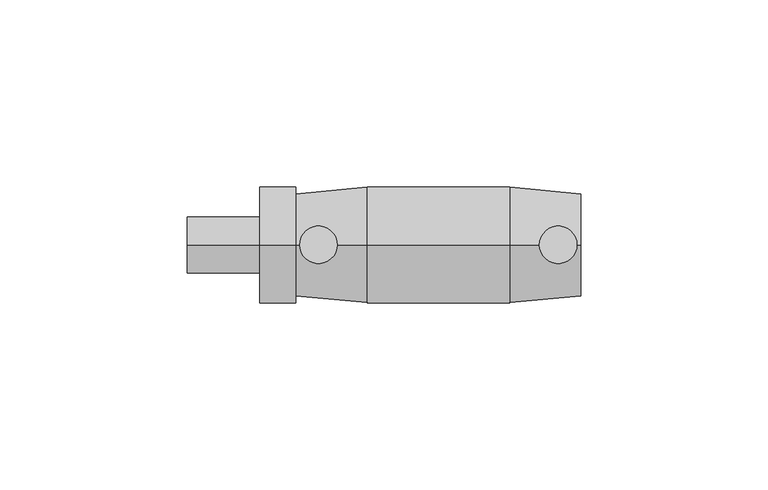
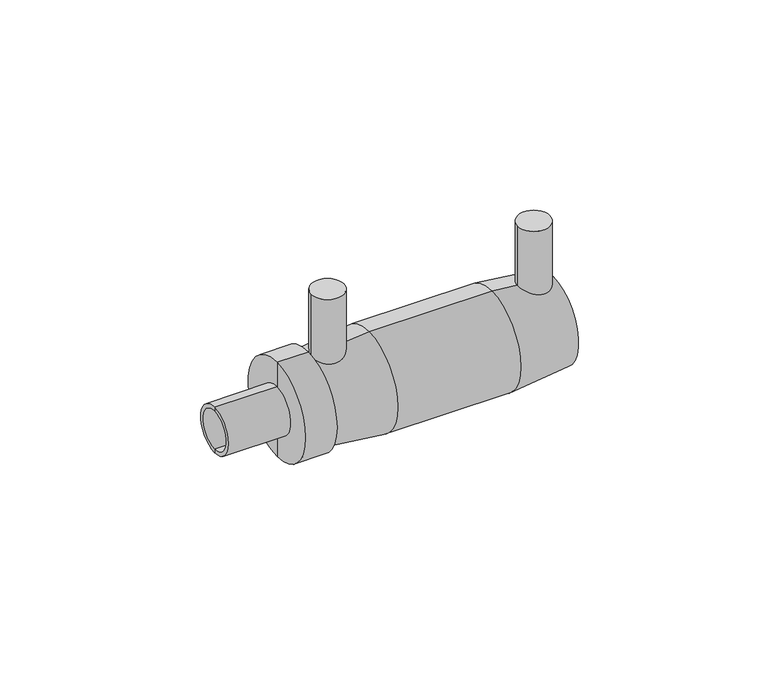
"""IFC4 building model written with IfcOpenShell, lengths in millimetres: pipe fitting geometry, Plumbing_Pipe-Fittings_Plasson_Male-Transition-Coupler_492104 : Plumbing_Pipe-Fittings_Plasson_Male-Transition-Coupler_492104."""

from ifc_helpers import new_model, si_unit, point, frame, frame_2d, origin, place, context, project, spatial, polyline, circle_curve, trimmed, segment, composite_curve, outline, extrude, source, transform, mapped, element, save
from ifc_brep_helpers import plane_surface, cylinder_surface, revolved_surface, advanced_brep


def pipe_fitting_9c215ce0(model_context):
    return source(origin(), model_context, "Body", "SolidModel", [
        advanced_brep(
        [(-38.0, 0.0, -7.0), (-38.0, 0.0, 7.0), (-38.0, 0.0, 10.0), (-38.0, 0.0, -10.0), (-1.0, 0.0, -7.0), (-1.0, 0.0, 7.0), (-1.0, 0.0, -10.0), (-1.0, 0.0, 10.0)],
        [
            (0, 1, circle_curve(frame((-38.0, 0.0, 0.0), z_axis=(1.0, 0.0, 0.0), x_axis=(0.0, 0.0, 1.0)), 7.0)),
            (1, 2),
            (2, 3, circle_curve(frame((-38.0, 0.0, 0.0), z_axis=(-1.0, 0.0, 0.0), x_axis=(0.0, 0.0, 1.0)), 10.0)),
            (3, 0),
            (1, 0, circle_curve(frame((-38.0, 0.0, 0.0), z_axis=(1.0, 0.0, 0.0), x_axis=(0.0, 0.0, 1.0)), 7.0)),
            (3, 2, circle_curve(frame((-38.0, 0.0, 0.0), z_axis=(-1.0, 0.0, 0.0), x_axis=(0.0, 0.0, 1.0)), 10.0)),
            (4, 5, circle_curve(frame((-1.0, 0.0, 0.0), z_axis=(1.0, 0.0, 0.0), x_axis=(0.0, 0.0, 1.0)), 7.0)),
            (5, 1),
            (0, 4),
            (5, 4, circle_curve(frame((-1.0, 0.0, 0.0), z_axis=(1.0, 0.0, 0.0), x_axis=(0.0, 0.0, 1.0)), 7.0)),
            (6, 7, circle_curve(frame((-1.0, 0.0, 0.0), z_axis=(1.0, 0.0, 0.0), x_axis=(0.0, 0.0, 1.0)), 10.0)),
            (7, 5),
            (4, 6),
            (7, 6, circle_curve(frame((-1.0, 0.0, 0.0), z_axis=(1.0, 0.0, 0.0), x_axis=(0.0, 0.0, 1.0)), 10.0)),
            (2, 7),
            (6, 3),
        ],
        [
            plane_surface(frame((-38.0, 0.0, 0.0), z_axis=(-1.0, 0.0, 0.0), x_axis=(0.0, 0.0, 1.0))),
            revolved_surface(polyline([(-38.0, 0.0, 7.0), (-1.0, 0.0, 7.0)]), (-38.0, 0.0, 0.0), (-1.0, 0.0, 0.0)),
            plane_surface(frame((-1.0, 0.0, 0.0), z_axis=(1.0, 0.0, 0.0), x_axis=(0.0, 0.0, 1.0))),
            cylinder_surface(frame((-38.0, 0.0, 0.0), z_axis=(-1.0, 0.0, 0.0), x_axis=(0.0, 0.0, 1.0)), 10.0),
        ],
        [
            (0, [[1, 2, 3, 4]]),
            (0, [[5, -4, 6, -2]]),
            (1, [[7, 8, -1, 9]]),
            (1, [[10, -9, -5, -8]]),
            (2, [[11, 12, -7, 13]]),
            (2, [[14, -13, -10, -12]]),
            (3, [[-3, 15, -11, 16]]),
            (3, [[-6, -16, -14, -15]]),
        ],
    ),
        advanced_brep(
        [(-38.0, 0.0, -6.25), (-38.0, 0.0, 6.25), (-67.0, 0.0, 6.25), (-67.0, 0.0, -6.25), (-38.0, 0.0, -15.5), (-38.0, 0.0, 15.5), (-47.6666667, 0.0, -15.5), (-47.6666667, 0.0, 15.5), (-47.6666667, 0.0, -7.5), (-47.6666667, 0.0, 7.5), (-67.0, 0.0, -7.5), (-67.0, 0.0, 7.5)],
        [
            (0, 1, circle_curve(frame((-38.0, 0.0, 0.0), z_axis=(1.0, 0.0, 0.0), x_axis=(0.0, 0.0, 1.0)), 6.25)),
            (1, 2),
            (2, 3, circle_curve(frame((-67.0, 0.0, 0.0), z_axis=(-1.0, 0.0, 0.0), x_axis=(0.0, 0.0, 1.0)), 6.25)),
            (3, 0),
            (1, 0, circle_curve(frame((-38.0, 0.0, 0.0), z_axis=(1.0, 0.0, 0.0), x_axis=(0.0, 0.0, 1.0)), 6.25)),
            (3, 2, circle_curve(frame((-67.0, 0.0, 0.0), z_axis=(-1.0, 0.0, 0.0), x_axis=(0.0, 0.0, 1.0)), 6.25)),
            (4, 5, circle_curve(frame((-38.0, 0.0, 0.0), z_axis=(1.0, 0.0, 0.0), x_axis=(0.0, 0.0, 1.0)), 15.5)),
            (5, 1),
            (0, 4),
            (5, 4, circle_curve(frame((-38.0, 0.0, 0.0), z_axis=(1.0, 0.0, 0.0), x_axis=(0.0, 0.0, 1.0)), 15.5)),
            (6, 7, circle_curve(frame((-47.6666667, 0.0, 0.0), z_axis=(1.0, 0.0, 0.0), x_axis=(0.0, 0.0, 1.0)), 15.5)),
            (7, 5),
            (4, 6),
            (7, 6, circle_curve(frame((-47.6666667, 0.0, 0.0), z_axis=(1.0, 0.0, 0.0), x_axis=(0.0, 0.0, 1.0)), 15.5)),
            (8, 9, circle_curve(frame((-47.6666667, 0.0, 0.0), z_axis=(1.0, 0.0, 0.0), x_axis=(0.0, 0.0, 1.0)), 7.5)),
            (9, 7),
            (6, 8),
            (9, 8, circle_curve(frame((-47.6666667, 0.0, 0.0), z_axis=(1.0, 0.0, 0.0), x_axis=(0.0, 0.0, 1.0)), 7.5)),
            (10, 11, circle_curve(frame((-67.0, 0.0, 0.0), z_axis=(1.0, 0.0, 0.0), x_axis=(0.0, 0.0, 1.0)), 7.5)),
            (11, 9),
            (8, 10),
            (11, 10, circle_curve(frame((-67.0, 0.0, 0.0), z_axis=(1.0, 0.0, 0.0), x_axis=(0.0, 0.0, 1.0)), 7.5)),
            (2, 11),
            (10, 3),
        ],
        [
            revolved_surface(polyline([(-67.0, 0.0, 6.25), (-38.0, 0.0, 6.25)]), (-47.6666667, 0.0, 0.0), (-1.0, 0.0, 0.0)),
            plane_surface(frame((-38.0, 0.0, 0.0), z_axis=(1.0, 0.0, 0.0), x_axis=(0.0, 0.0, 1.0))),
            cylinder_surface(frame((-47.6666667, 0.0, 0.0), z_axis=(-1.0, 0.0, 0.0), x_axis=(0.0, 0.0, 1.0)), 15.5),
            plane_surface(frame((-47.6666667, 0.0, 0.0), z_axis=(-1.0, 0.0, 0.0), x_axis=(0.0, 0.0, 1.0))),
            cylinder_surface(frame((-47.6666667, 0.0, 0.0), z_axis=(-1.0, 0.0, 0.0), x_axis=(0.0, 0.0, 1.0)), 7.5),
            plane_surface(frame((-67.0, 0.0, 0.0), z_axis=(-1.0, 0.0, 0.0), x_axis=(0.0, 0.0, 1.0))),
        ],
        [
            (0, [[1, 2, 3, 4]]),
            (0, [[5, -4, 6, -2]]),
            (1, [[7, 8, -1, 9]]),
            (1, [[10, -9, -5, -8]]),
            (2, [[11, 12, -7, 13]]),
            (2, [[14, -13, -10, -12]]),
            (3, [[15, 16, -11, 17]]),
            (3, [[18, -17, -14, -16]]),
            (4, [[19, 20, -15, 21]]),
            (4, [[22, -21, -18, -20]]),
            (5, [[-3, 23, -19, 24]]),
            (5, [[-6, -24, -22, -23]]),
        ],
    ),
        extrude(outline(composite_curve([segment(trimmed(circle_curve(frame_2d((-32.0, 0.0)), 5.0), [point((-37.0, 0.0))], [point((-27.0, 0.0))], False, "CARTESIAN"), True, "CONTINUOUS"), segment(trimmed(circle_curve(frame_2d((-32.0, 0.0)), 5.0), [point((-27.0, 0.0))], [point((-37.0, 0.0))], False, "CARTESIAN"), True, "CONTINUOUS")], self_intersect=False)), frame((0.0, 0.0, 12.75), z_axis=(0.0, 0.0, 1.0), x_axis=(1.0, 0.0, 0.0)), (0.0, 0.0, 1.0), 21.25),
        extrude(outline(composite_curve([segment(trimmed(circle_curve(frame_2d((32.0, 0.0)), 5.0), [point((27.0, 0.0))], [point((37.0, 0.0))], False, "CARTESIAN"), True, "CONTINUOUS"), segment(trimmed(circle_curve(frame_2d((32.0, 0.0)), 5.0), [point((37.0, 0.0))], [point((27.0, 0.0))], False, "CARTESIAN"), True, "CONTINUOUS")], self_intersect=False)), frame((0.0, 0.0, 12.75), z_axis=(0.0, 0.0, 1.0), x_axis=(1.0, 0.0, 0.0)), (0.0, 0.0, 1.0), 21.25),
        advanced_brep(
        [(-1.0, 0.0, -10.0), (-1.0, 0.0, 10.0), (-38.0, 0.0, 10.0), (-38.0, 0.0, -10.0), (38.0, 0.0, -13.6666667), (38.0, 0.0, 13.6666667), (38.0, 0.0, 10.0), (38.0, 0.0, -10.0), (-19.0, 0.0, -15.5), (-19.0, 0.0, 15.5), (19.0, 0.0, 15.5), (19.0, 0.0, -15.5), (-38.0, 0.0, 13.6666667), (-38.0, 0.0, -13.6666667), (-1.0, 0.0, -7.0), (-1.0, 0.0, 7.0), (1.0, 0.0, -7.0), (1.0, 0.0, 7.0), (1.0, 0.0, -10.0), (1.0, 0.0, 10.0)],
        [
            (0, 1, circle_curve(frame((-1.0, 0.0, 0.0), z_axis=(1.0, 0.0, 0.0), x_axis=(0.0, 0.0, 1.0)), 10.0)),
            (1, 2),
            (2, 3, circle_curve(frame((-38.0, 0.0, 0.0), z_axis=(-1.0, 0.0, 0.0), x_axis=(0.0, 0.0, 1.0)), 10.0)),
            (3, 0),
            (1, 0, circle_curve(frame((-1.0, 0.0, 0.0), z_axis=(1.0, 0.0, 0.0), x_axis=(0.0, 0.0, 1.0)), 10.0)),
            (3, 2, circle_curve(frame((-38.0, 0.0, 0.0), z_axis=(-1.0, 0.0, 0.0), x_axis=(0.0, 0.0, 1.0)), 10.0)),
            (4, 5, circle_curve(frame((38.0, 0.0, 0.0), z_axis=(1.0, 0.0, 0.0), x_axis=(0.0, 0.0, 1.0)), 13.6666667)),
            (5, 6),
            (6, 7, circle_curve(frame((38.0, 0.0, 0.0), z_axis=(-1.0, 0.0, 0.0), x_axis=(0.0, 0.0, 1.0)), 10.0)),
            (7, 4),
            (5, 4, circle_curve(frame((38.0, 0.0, 0.0), z_axis=(1.0, 0.0, 0.0), x_axis=(0.0, 0.0, 1.0)), 13.6666667)),
            (7, 6, circle_curve(frame((38.0, 0.0, 0.0), z_axis=(-1.0, 0.0, 0.0), x_axis=(0.0, 0.0, 1.0)), 10.0)),
            (8, 9, circle_curve(frame((-19.0, 0.0, 0.0), z_axis=(1.0, 0.0, 0.0), x_axis=(0.0, 0.0, 1.0)), 15.5)),
            (9, 10),
            (10, 11, circle_curve(frame((19.0, 0.0, 0.0), z_axis=(-1.0, 0.0, 0.0), x_axis=(0.0, 0.0, 1.0)), 15.5)),
            (11, 8),
            (9, 8, circle_curve(frame((-19.0, 0.0, 0.0), z_axis=(1.0, 0.0, 0.0), x_axis=(0.0, 0.0, 1.0)), 15.5)),
            (11, 10, circle_curve(frame((19.0, 0.0, 0.0), z_axis=(-1.0, 0.0, 0.0), x_axis=(0.0, 0.0, 1.0)), 15.5)),
            (2, 12),
            (12, 13, circle_curve(frame((-38.0, 0.0, 0.0), z_axis=(-1.0, 0.0, 0.0), x_axis=(0.0, 0.0, 1.0)), 13.6666667)),
            (13, 3),
            (13, 12, circle_curve(frame((-38.0, 0.0, 0.0), z_axis=(-1.0, 0.0, 0.0), x_axis=(0.0, 0.0, 1.0)), 13.6666667)),
            (10, 5),
            (4, 11),
            (12, 9),
            (8, 13),
            (14, 15, circle_curve(frame((-1.0, 0.0, 0.0), z_axis=(1.0, 0.0, 0.0), x_axis=(0.0, 0.0, 1.0)), 7.0)),
            (15, 1),
            (0, 14),
            (15, 14, circle_curve(frame((-1.0, 0.0, 0.0), z_axis=(1.0, 0.0, 0.0), x_axis=(0.0, 0.0, 1.0)), 7.0)),
            (16, 17, circle_curve(frame((1.0, 0.0, 0.0), z_axis=(1.0, 0.0, 0.0), x_axis=(0.0, 0.0, 1.0)), 7.0)),
            (17, 15),
            (14, 16),
            (17, 16, circle_curve(frame((1.0, 0.0, 0.0), z_axis=(1.0, 0.0, 0.0), x_axis=(0.0, 0.0, 1.0)), 7.0)),
            (18, 19, circle_curve(frame((1.0, 0.0, 0.0), z_axis=(1.0, 0.0, 0.0), x_axis=(0.0, 0.0, 1.0)), 10.0)),
            (19, 17),
            (16, 18),
            (19, 18, circle_curve(frame((1.0, 0.0, 0.0), z_axis=(1.0, 0.0, 0.0), x_axis=(0.0, 0.0, 1.0)), 10.0)),
            (6, 19),
            (18, 7),
        ],
        [
            revolved_surface(polyline([(-38.0, 0.0, 10.0), (-1.0, 0.0, 10.0)]), (-38.0, 0.0, 0.0), (-1.0, 0.0, 0.0)),
            plane_surface(frame((38.0, 0.0, 0.0), z_axis=(1.0, 0.0, 0.0), x_axis=(0.0, 0.0, 1.0))),
            cylinder_surface(frame((-38.0, 0.0, 0.0), z_axis=(-1.0, 0.0, 0.0), x_axis=(0.0, 0.0, 1.0)), 15.5),
            plane_surface(frame((-38.0, 0.0, 0.0), z_axis=(-1.0, 0.0, 0.0), x_axis=(0.0, 0.0, 1.0))),
            revolved_surface(polyline([(38.0, 0.0, 13.6666667), (19.0, 0.0, 15.5)]), (-38.0, 0.0, 0.0), (-1.0, 0.0, 0.0)),
            revolved_surface(polyline([(-19.0, 0.0, 15.5), (-38.0, 0.0, 13.6666667)]), (-38.0, 0.0, 0.0), (-1.0, 0.0, 0.0)),
            plane_surface(frame((-1.0, 0.0, 0.0), z_axis=(-1.0, 0.0, 0.0), x_axis=(0.0, 0.0, 1.0))),
            revolved_surface(polyline([(-1.0, 0.0, 7.0), (1.0, 0.0, 7.0)]), (-38.0, 0.0, 0.0), (-1.0, 0.0, 0.0)),
            plane_surface(frame((1.0, 0.0, 0.0), z_axis=(1.0, 0.0, 0.0), x_axis=(0.0, 0.0, 1.0))),
            revolved_surface(polyline([(1.0, 0.0, 10.0), (38.0, 0.0, 10.0)]), (-38.0, 0.0, 0.0), (-1.0, 0.0, 0.0)),
        ],
        [
            (0, [[1, 2, 3, 4]]),
            (0, [[5, -4, 6, -2]]),
            (1, [[7, 8, 9, 10]]),
            (1, [[11, -10, 12, -8]]),
            (2, [[13, 14, 15, 16]]),
            (2, [[17, -16, 18, -14]]),
            (3, [[-3, 19, 20, 21]]),
            (3, [[-6, -21, 22, -19]]),
            (4, [[-15, 23, -7, 24]]),
            (4, [[-18, -24, -11, -23]]),
            (5, [[-20, 25, -13, 26]]),
            (5, [[-22, -26, -17, -25]]),
            (6, [[27, 28, -1, 29]]),
            (6, [[30, -29, -5, -28]]),
            (7, [[31, 32, -27, 33]]),
            (7, [[34, -33, -30, -32]]),
            (8, [[35, 36, -31, 37]]),
            (8, [[38, -37, -34, -36]]),
            (9, [[-9, 39, -35, 40]]),
            (9, [[-12, -40, -38, -39]]),
        ],
    ),
    ])


if __name__ == "__main__":
    model = new_model("IFC4")
    model_context = context("Model", 3, world=origin())
    ifc_project = project(units=[si_unit("LENGTHUNIT", "METRE", prefix="MILLI")], contexts=[model_context])
    site = spatial("IfcSite", under=ifc_project)
    building = spatial("IfcBuilding", under=site)
    placement = place(None, origin())
    pipe_fitting_shape = pipe_fitting_9c215ce0(model_context)
    element("IfcPipeFitting", 1, ObjectType="Plumbing_Pipe-Fittings_Plasson_Male-Transition-Coupler_492104 : Plumbing_Pipe-Fittings_Plasson_Male-Transition-Coupler_492104", at=placement, inside=building, context=model_context, shape_type="MappedRepresentation", body=[
        mapped(pipe_fitting_shape, transform((0.0, 0.0, 0.0), x_axis=(1.0, 0.0, 0.0), y_axis=(0.0, 1.0, 0.0), z_axis=(0.0, 0.0, 1.0))),
    ])
    save(model, "model.ifc")
